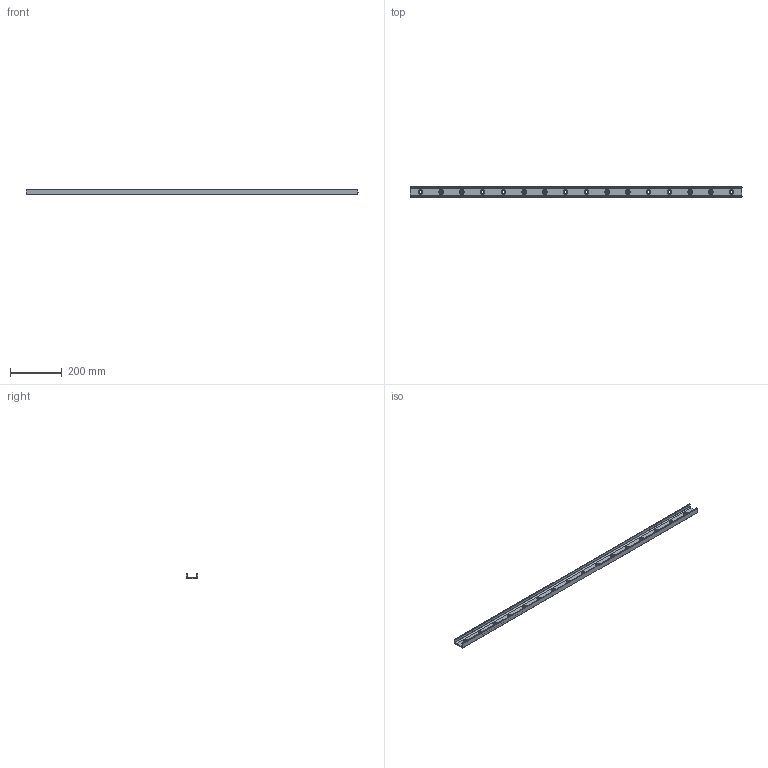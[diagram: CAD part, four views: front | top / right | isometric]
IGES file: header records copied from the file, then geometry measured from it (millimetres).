
Start section: SolidWorks IGES file using analytic representation for surfaces
Global section: file name: C:\Users\IanO\Desktop\43\L1943.ULC43_v2_20180121_IGES\L1943.ULC43-1280.igs; native system: SolidWorks 2017; preprocessor: SolidWorks 2017; author: IanO; date: 190121.084711; units: millimetre
Bounding box: 1280 x 43 x 21 mm (x, y, z)
Surface area: 201099.7 mm2 (no closed solid volume)
Topology: 0 solids, 0 shells, 106 faces, 2598 edges, 2598 vertices
Faces by surface type: revolution 77, bspline 29
